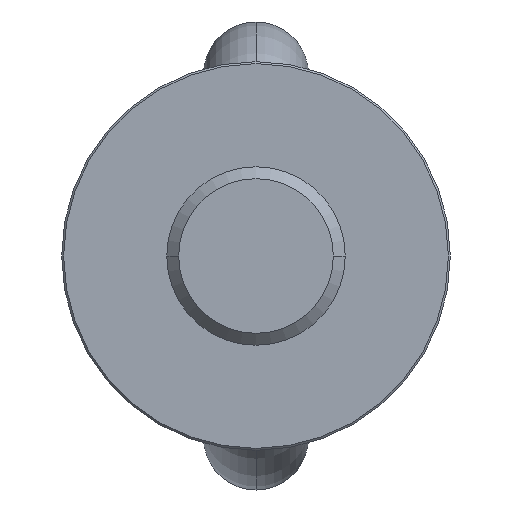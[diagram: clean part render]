
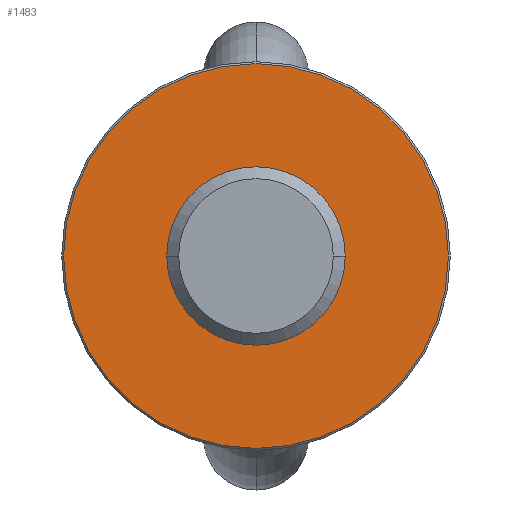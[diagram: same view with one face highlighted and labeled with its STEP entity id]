
A CAD part, front view. The second image highlights one B-rep face of the part: STEP entity #1483.
In plain terms, the highlighted planar face has unit normal (0, -1, 0).
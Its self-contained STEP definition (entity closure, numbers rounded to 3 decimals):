
#5=CARTESIAN_POINT('',(0.,0.,0.));
#6=DIRECTION('',(0.,1.,0.));
#7=DIRECTION('',(1.,0.,0.));
#8=AXIS2_PLACEMENT_3D('',#5,#6,#7);
#14=CARTESIAN_POINT('',(0.,0.,0.));
#15=DIRECTION('',(0.,-1.,0.));
#16=DIRECTION('',(1.,0.,0.));
#17=AXIS2_PLACEMENT_3D('',#14,#15,#16);
#52=CARTESIAN_POINT('',(0.,0.,0.));
#53=DIRECTION('',(0.,-1.,0.));
#54=DIRECTION('',(1.,0.,0.));
#55=AXIS2_PLACEMENT_3D('',#52,#53,#54);
#1129=CARTESIAN_POINT('',(0.,0.,0.));
#1130=DIRECTION('',(0.,1.,0.));
#1131=DIRECTION('',(1.,0.,0.));
#1132=AXIS2_PLACEMENT_3D('',#1129,#1130,#1131);
#1182=CARTESIAN_POINT('',(48.5,0.,0.));
#1183=CARTESIAN_POINT('',(-48.5,0.,0.));
#1184=VERTEX_POINT('',#1182);
#1185=VERTEX_POINT('',#1183);
#1238=CARTESIAN_POINT('',(22.5,0.,0.));
#1240=VERTEX_POINT('',#1238);
#1242=CARTESIAN_POINT('',(-22.5,0.,0.));
#1244=VERTEX_POINT('',#1242);
#1466=CARTESIAN_POINT('',(0.,0.,0.));
#1467=DIRECTION('',(0.,-1.,0.));
#1468=DIRECTION('',(-1.,0.,0.));
#1469=AXIS2_PLACEMENT_3D('',#1466,#1467,#1468);
#1470=PLANE('',#1469);
#1472=ORIENTED_EDGE('',*,*,#1471,.F.);
#1474=ORIENTED_EDGE('',*,*,#1473,.T.);
#1475=EDGE_LOOP('',(#1472,#1474));
#1476=FACE_OUTER_BOUND('',#1475,.F.);
#1478=ORIENTED_EDGE('',*,*,#1477,.F.);
#1480=ORIENTED_EDGE('',*,*,#1479,.T.);
#1481=EDGE_LOOP('',(#1478,#1480));
#1482=FACE_BOUND('',#1481,.F.);
#1483=ADVANCED_FACE('',(#1476,#1482),#1470,.T.);
#9=CIRCLE('',#8,22.5);
#18=CIRCLE('',#17,22.5);
#56=CIRCLE('',#55,48.5);
#1133=CIRCLE('',#1132,48.5);
#1471=EDGE_CURVE('',#1184,#1185,#56,.T.);
#1473=EDGE_CURVE('',#1184,#1185,#1133,.T.);
#1477=EDGE_CURVE('',#1240,#1244,#9,.T.);
#1479=EDGE_CURVE('',#1240,#1244,#18,.T.);
